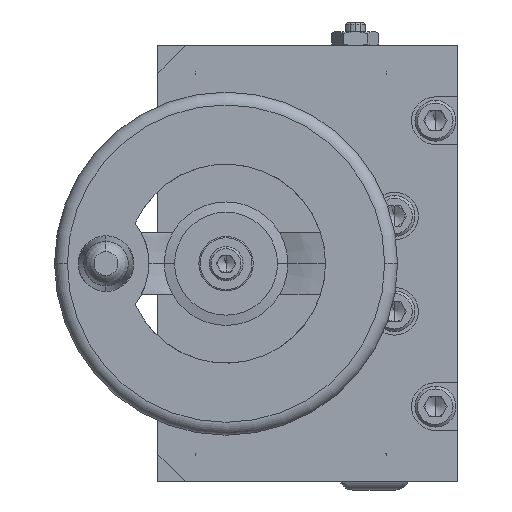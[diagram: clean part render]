
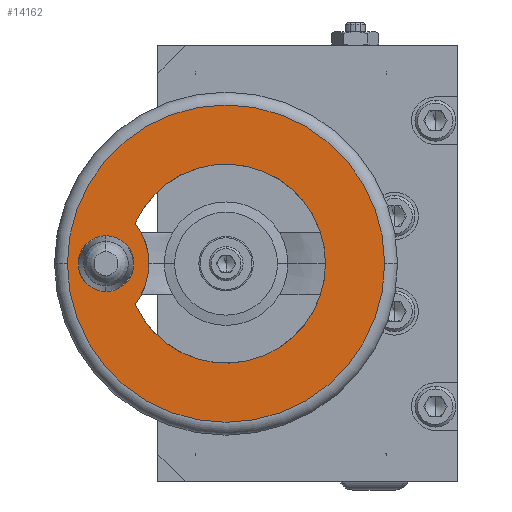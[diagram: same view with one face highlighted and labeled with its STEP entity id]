
A CAD part, left-side view. The second image highlights one B-rep face of the part: STEP entity #14162.
In plain terms, the highlighted planar face has unit normal (-1, 0, 0) as drawn and (0, 1, 0) by its records, which use the part's own axes.
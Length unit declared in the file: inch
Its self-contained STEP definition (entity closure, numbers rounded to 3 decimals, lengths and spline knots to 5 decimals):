
#873 = CIRCLE ( 'NONE', #877, 0.25591 ) ;
#877 = AXIS2_PLACEMENT_3D ( 'NONE', #2630, #2631, #2632 ) ;
#942 = CIRCLE ( 'NONE', #947, 1.45669 ) ;
#947 = AXIS2_PLACEMENT_3D ( 'NONE', #2746, #2747, #2748 ) ;
#951 = CIRCLE ( 'NONE', #957, 0.91339 ) ;
#957 = AXIS2_PLACEMENT_3D ( 'NONE', #2758, #2759, #2760 ) ;
#1010 = CIRCLE ( 'NONE', #1013, 0.61417 ) ;
#1011 = CIRCLE ( 'NONE', #1017, 0.61417 ) ;
#1013 = AXIS2_PLACEMENT_3D ( 'NONE', #2891, #2892, #2893 ) ;
#1017 = AXIS2_PLACEMENT_3D ( 'NONE', #2907, #2908, #2909 ) ;
#1031 = CIRCLE ( 'NONE', #1043, 0.91339 ) ;
#1041 = CIRCLE ( 'NONE', #1047, 0.25591 ) ;
#1043 = AXIS2_PLACEMENT_3D ( 'NONE', #2961, #2962, #2963 ) ;
#1045 = CIRCLE ( 'NONE', #1050, 1.45669 ) ;
#1047 = AXIS2_PLACEMENT_3D ( 'NONE', #2964, #2965, #2966 ) ;
#1050 = AXIS2_PLACEMENT_3D ( 'NONE', #2967, #2968, #2969 ) ;
#2630 = CARTESIAN_POINT ( 'NONE',  ( 0., 1.41732, -1.10236 ) ) ;
#2631 = DIRECTION ( 'NONE',  ( 0., 1., 0. ) ) ;
#2632 = DIRECTION ( 'NONE',  ( 0., 0., 1. ) ) ;
#2746 = CARTESIAN_POINT ( 'NONE',  ( 0., 1.41732, 0. ) ) ;
#2747 = DIRECTION ( 'NONE',  ( 0., 1., 0. ) ) ;
#2748 = DIRECTION ( 'NONE',  ( 0., 0., 1. ) ) ;
#2758 = CARTESIAN_POINT ( 'NONE',  ( 0., 1.41732, 0. ) ) ;
#2759 = DIRECTION ( 'NONE',  ( 0., 1., 0. ) ) ;
#2760 = DIRECTION ( 'NONE',  ( 0., 0., 1. ) ) ;
#2891 = CARTESIAN_POINT ( 'NONE',  ( 0., 1.41732, -1.32283 ) ) ;
#2892 = DIRECTION ( 'NONE',  ( 0., 1., 0. ) ) ;
#2893 = DIRECTION ( 'NONE',  ( 1., 0., 0. ) ) ;
#2907 = CARTESIAN_POINT ( 'NONE',  ( 0., 1.41732, -1.32283 ) ) ;
#2908 = DIRECTION ( 'NONE',  ( 0., 1., 0. ) ) ;
#2909 = DIRECTION ( 'NONE',  ( 1., 0., 0. ) ) ;
#2961 = CARTESIAN_POINT ( 'NONE',  ( 0., 1.41732, 0. ) ) ;
#2962 = DIRECTION ( 'NONE',  ( 0., 1., 0. ) ) ;
#2963 = DIRECTION ( 'NONE',  ( 0., 0., 1. ) ) ;
#2964 = CARTESIAN_POINT ( 'NONE',  ( 0., 1.41732, -1.10236 ) ) ;
#2965 = DIRECTION ( 'NONE',  ( 0., 1., 0. ) ) ;
#2966 = DIRECTION ( 'NONE',  ( 0., 0., 1. ) ) ;
#2967 = CARTESIAN_POINT ( 'NONE',  ( 0., 1.41732, 0. ) ) ;
#2968 = DIRECTION ( 'NONE',  ( 0., 1., 0. ) ) ;
#2969 = DIRECTION ( 'NONE',  ( 0., 0., 1. ) ) ;
#5768 = CARTESIAN_POINT ( 'NONE',  ( 0.37205, 1.41732, -0.83418 ) ) ;
#5809 = CARTESIAN_POINT ( 'NONE',  ( -0.25591, 1.41732, -1.10236 ) ) ;
#5961 = CARTESIAN_POINT ( 'NONE',  ( 0., 1.41732, 1.45669 ) ) ;
#5993 = CARTESIAN_POINT ( 'NONE',  ( -0.37205, 1.41732, -0.83418 ) ) ;
#5996 = CARTESIAN_POINT ( 'NONE',  ( 0.25591, 1.41732, -1.10236 ) ) ;
#6281 = CARTESIAN_POINT ( 'NONE',  ( 0., 1.41732, 0.91339 ) ) ;
#7212 = EDGE_LOOP ( 'NONE', ( #23279, #23280 ) ) ;
#7651 = CARTESIAN_POINT ( 'NONE',  ( 0., 1.41732, -0.70866 ) ) ;
#7673 = CARTESIAN_POINT ( 'NONE',  ( 0., 1.41732, -1.45669 ) ) ;
#9437 = AXIS2_PLACEMENT_3D ( 'NONE', #10871, #10867, #10876 ) ;
#10867 = DIRECTION ( 'NONE',  ( 0., 1., 0. ) ) ;
#10870 = FACE_BOUND ( 'NONE', #18502, .T. ) ;
#10871 = CARTESIAN_POINT ( 'NONE',  ( 0.91339, 1.41732, 0. ) ) ;
#10872 = FACE_BOUND ( 'NONE', #18509, .T. ) ;
#10874 = FACE_OUTER_BOUND ( 'NONE', #7212, .T. ) ;
#10875 = PLANE ( 'NONE',  #9437 ) ;
#10876 = DIRECTION ( 'NONE',  ( 0., 0., 1. ) ) ;
#14162 = ADVANCED_FACE ( 'NONE', ( #10870, #10872, #10874 ), #10875, .T. ) ;
#15069 = EDGE_CURVE ( 'NONE', #18310, #18497, #873, .T. ) ;
#15098 = EDGE_CURVE ( 'NONE', #18462, #21778, #942, .T. ) ;
#15102 = EDGE_CURVE ( 'NONE', #21613, #18269, #951, .T. ) ;
#15130 = EDGE_CURVE ( 'NONE', #18494, #21767, #1010, .T. ) ;
#15135 = EDGE_CURVE ( 'NONE', #21767, #18269, #1011, .T. ) ;
#15147 = EDGE_CURVE ( 'NONE', #18494, #21613, #1031, .T. ) ;
#15148 = EDGE_CURVE ( 'NONE', #18497, #18310, #1041, .T. ) ;
#15149 = EDGE_CURVE ( 'NONE', #21778, #18462, #1045, .T. ) ;
#18269 = VERTEX_POINT ( 'NONE', #5768 ) ;
#18310 = VERTEX_POINT ( 'NONE', #5809 ) ;
#18462 = VERTEX_POINT ( 'NONE', #5961 ) ;
#18494 = VERTEX_POINT ( 'NONE', #5993 ) ;
#18497 = VERTEX_POINT ( 'NONE', #5996 ) ;
#18502 = EDGE_LOOP ( 'NONE', ( #23269, #23271 ) ) ;
#18509 = EDGE_LOOP ( 'NONE', ( #23272, #23274, #23275, #23277 ) ) ;
#21613 = VERTEX_POINT ( 'NONE', #6281 ) ;
#21767 = VERTEX_POINT ( 'NONE', #7651 ) ;
#21778 = VERTEX_POINT ( 'NONE', #7673 ) ;
#23269 = ORIENTED_EDGE ( 'NONE', *, *, #15069, .F. ) ;
#23271 = ORIENTED_EDGE ( 'NONE', *, *, #15148, .F. ) ;
#23272 = ORIENTED_EDGE ( 'NONE', *, *, #15130, .T. ) ;
#23274 = ORIENTED_EDGE ( 'NONE', *, *, #15135, .T. ) ;
#23275 = ORIENTED_EDGE ( 'NONE', *, *, #15102, .F. ) ;
#23277 = ORIENTED_EDGE ( 'NONE', *, *, #15147, .F. ) ;
#23279 = ORIENTED_EDGE ( 'NONE', *, *, #15098, .T. ) ;
#23280 = ORIENTED_EDGE ( 'NONE', *, *, #15149, .T. ) ;
